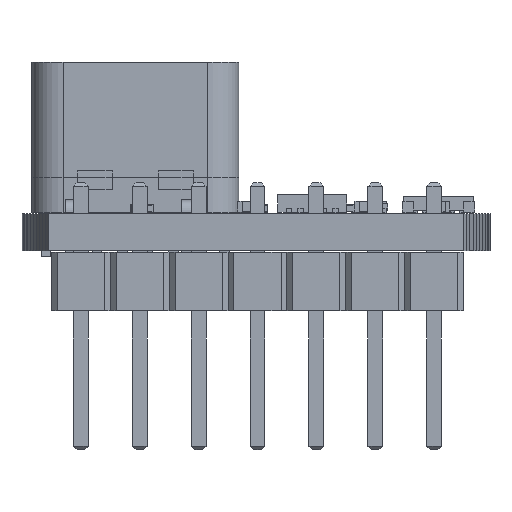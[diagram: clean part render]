
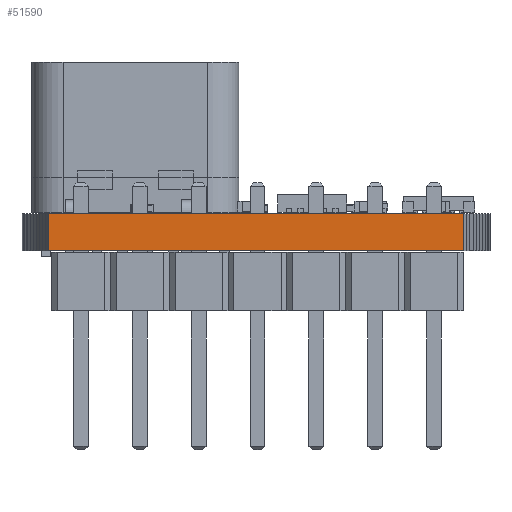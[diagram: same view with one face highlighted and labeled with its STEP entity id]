
A CAD part, front view. The second image highlights one B-rep face of the part: STEP entity #51590.
In plain terms, the highlighted planar face has unit normal (0, -1, 0).
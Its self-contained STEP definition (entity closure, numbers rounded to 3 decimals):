
#45490 = PLANE('',#45491);
#45491 = AXIS2_PLACEMENT_3D('',#45492,#45493,#45494);
#45492 = CARTESIAN_POINT('',(0.,0.,1.6)
  );
#45493 = DIRECTION('',(0.,0.,1.));
#45494 = DIRECTION('',(1.,0.,-0.));
#45544 = PLANE('',#45545);
#45545 = AXIS2_PLACEMENT_3D('',#45546,#45547,#45548);
#45546 = CARTESIAN_POINT('',(0.,0.,0.)
  );
#45547 = DIRECTION('',(0.,0.,1.));
#45548 = DIRECTION('',(1.,0.,-0.));
#46269 = VERTEX_POINT('',#46270);
#46270 = CARTESIAN_POINT('',(-8.954,-4.826,0.));
#46284 = PLANE('',#46285);
#46285 = AXIS2_PLACEMENT_3D('',#46286,#46287,#46288);
#46286 = CARTESIAN_POINT('',(-9.081,-4.572,0.));
#46287 = DIRECTION('',(0.894,0.447,-0.));
#46288 = DIRECTION('',(0.447,-0.894,0.));
#46296 = EDGE_CURVE('',#46269,#46297,#46299,.T.);
#46297 = VERTEX_POINT('',#46298);
#46298 = CARTESIAN_POINT('',(8.954,-4.826,0.));
#46299 = SURFACE_CURVE('',#46300,(#46304,#46311),.PCURVE_S1.);
#46300 = LINE('',#46301,#46302);
#46301 = CARTESIAN_POINT('',(-8.954,-4.826,0.));
#46302 = VECTOR('',#46303,1.);
#46303 = DIRECTION('',(1.,0.,0.));
#46304 = PCURVE('',#45544,#46305);
#46305 = DEFINITIONAL_REPRESENTATION('',(#46306),#46310);
#46306 = LINE('',#46307,#46308);
#46307 = CARTESIAN_POINT('',(-8.954,-4.826));
#46308 = VECTOR('',#46309,1.);
#46309 = DIRECTION('',(1.,0.));
#46310 = ( GEOMETRIC_REPRESENTATION_CONTEXT(2) 
PARAMETRIC_REPRESENTATION_CONTEXT() REPRESENTATION_CONTEXT('2D SPACE',''
  ) );
#46311 = PCURVE('',#46312,#46317);
#46312 = PLANE('',#46313);
#46313 = AXIS2_PLACEMENT_3D('',#46314,#46315,#46316);
#46314 = CARTESIAN_POINT('',(-8.954,-4.826,0.));
#46315 = DIRECTION('',(0.,1.,0.));
#46316 = DIRECTION('',(1.,0.,0.));
#46317 = DEFINITIONAL_REPRESENTATION('',(#46318),#46322);
#46318 = LINE('',#46319,#46320);
#46319 = CARTESIAN_POINT('',(0.,0.));
#46320 = VECTOR('',#46321,1.);
#46321 = DIRECTION('',(1.,0.));
#46322 = ( GEOMETRIC_REPRESENTATION_CONTEXT(2) 
PARAMETRIC_REPRESENTATION_CONTEXT() REPRESENTATION_CONTEXT('2D SPACE',''
  ) );
#46340 = PLANE('',#46341);
#46341 = AXIS2_PLACEMENT_3D('',#46342,#46343,#46344);
#46342 = CARTESIAN_POINT('',(8.954,-4.826,0.));
#46343 = DIRECTION('',(-0.894,0.447,0.));
#46344 = DIRECTION('',(0.447,0.894,0.));
#48766 = VERTEX_POINT('',#48767);
#48767 = CARTESIAN_POINT('',(-8.954,-4.826,1.6));
#48788 = EDGE_CURVE('',#48766,#48789,#48791,.T.);
#48789 = VERTEX_POINT('',#48790);
#48790 = CARTESIAN_POINT('',(8.954,-4.826,1.6));
#48791 = SURFACE_CURVE('',#48792,(#48796,#48803),.PCURVE_S1.);
#48792 = LINE('',#48793,#48794);
#48793 = CARTESIAN_POINT('',(-8.954,-4.826,1.6));
#48794 = VECTOR('',#48795,1.);
#48795 = DIRECTION('',(1.,0.,0.));
#48796 = PCURVE('',#45490,#48797);
#48797 = DEFINITIONAL_REPRESENTATION('',(#48798),#48802);
#48798 = LINE('',#48799,#48800);
#48799 = CARTESIAN_POINT('',(-8.954,-4.826));
#48800 = VECTOR('',#48801,1.);
#48801 = DIRECTION('',(1.,0.));
#48802 = ( GEOMETRIC_REPRESENTATION_CONTEXT(2) 
PARAMETRIC_REPRESENTATION_CONTEXT() REPRESENTATION_CONTEXT('2D SPACE',''
  ) );
#48803 = PCURVE('',#46312,#48804);
#48804 = DEFINITIONAL_REPRESENTATION('',(#48805),#48809);
#48805 = LINE('',#48806,#48807);
#48806 = CARTESIAN_POINT('',(0.,-1.6));
#48807 = VECTOR('',#48808,1.);
#48808 = DIRECTION('',(1.,0.));
#48809 = ( GEOMETRIC_REPRESENTATION_CONTEXT(2) 
PARAMETRIC_REPRESENTATION_CONTEXT() REPRESENTATION_CONTEXT('2D SPACE',''
  ) );
#51540 = EDGE_CURVE('',#46297,#48789,#51541,.T.);
#51541 = SURFACE_CURVE('',#51542,(#51546,#51553),.PCURVE_S1.);
#51542 = LINE('',#51543,#51544);
#51543 = CARTESIAN_POINT('',(8.954,-4.826,0.));
#51544 = VECTOR('',#51545,1.);
#51545 = DIRECTION('',(0.,0.,1.));
#51546 = PCURVE('',#46340,#51547);
#51547 = DEFINITIONAL_REPRESENTATION('',(#51548),#51552);
#51548 = LINE('',#51549,#51550);
#51549 = CARTESIAN_POINT('',(0.,0.));
#51550 = VECTOR('',#51551,1.);
#51551 = DIRECTION('',(0.,-1.));
#51552 = ( GEOMETRIC_REPRESENTATION_CONTEXT(2) 
PARAMETRIC_REPRESENTATION_CONTEXT() REPRESENTATION_CONTEXT('2D SPACE',''
  ) );
#51553 = PCURVE('',#46312,#51554);
#51554 = DEFINITIONAL_REPRESENTATION('',(#51555),#51559);
#51555 = LINE('',#51556,#51557);
#51556 = CARTESIAN_POINT('',(17.907,0.));
#51557 = VECTOR('',#51558,1.);
#51558 = DIRECTION('',(0.,-1.));
#51559 = ( GEOMETRIC_REPRESENTATION_CONTEXT(2) 
PARAMETRIC_REPRESENTATION_CONTEXT() REPRESENTATION_CONTEXT('2D SPACE',''
  ) );
#51569 = EDGE_CURVE('',#46269,#48766,#51570,.T.);
#51570 = SURFACE_CURVE('',#51571,(#51575,#51582),.PCURVE_S1.);
#51571 = LINE('',#51572,#51573);
#51572 = CARTESIAN_POINT('',(-8.954,-4.826,0.));
#51573 = VECTOR('',#51574,1.);
#51574 = DIRECTION('',(0.,0.,1.));
#51575 = PCURVE('',#46284,#51576);
#51576 = DEFINITIONAL_REPRESENTATION('',(#51577),#51581);
#51577 = LINE('',#51578,#51579);
#51578 = CARTESIAN_POINT('',(0.284,0.));
#51579 = VECTOR('',#51580,1.);
#51580 = DIRECTION('',(0.,-1.));
#51581 = ( GEOMETRIC_REPRESENTATION_CONTEXT(2) 
PARAMETRIC_REPRESENTATION_CONTEXT() REPRESENTATION_CONTEXT('2D SPACE',''
  ) );
#51582 = PCURVE('',#46312,#51583);
#51583 = DEFINITIONAL_REPRESENTATION('',(#51584),#51588);
#51584 = LINE('',#51585,#51586);
#51585 = CARTESIAN_POINT('',(0.,0.));
#51586 = VECTOR('',#51587,1.);
#51587 = DIRECTION('',(0.,-1.));
#51588 = ( GEOMETRIC_REPRESENTATION_CONTEXT(2) 
PARAMETRIC_REPRESENTATION_CONTEXT() REPRESENTATION_CONTEXT('2D SPACE',''
  ) );
#51590 = ADVANCED_FACE('',(#51591),#46312,.F.);
#51591 = FACE_BOUND('',#51592,.F.);
#51592 = EDGE_LOOP('',(#51593,#51594,#51595,#51596));
#51593 = ORIENTED_EDGE('',*,*,#51569,.T.);
#51594 = ORIENTED_EDGE('',*,*,#48788,.T.);
#51595 = ORIENTED_EDGE('',*,*,#51540,.F.);
#51596 = ORIENTED_EDGE('',*,*,#46296,.F.);
